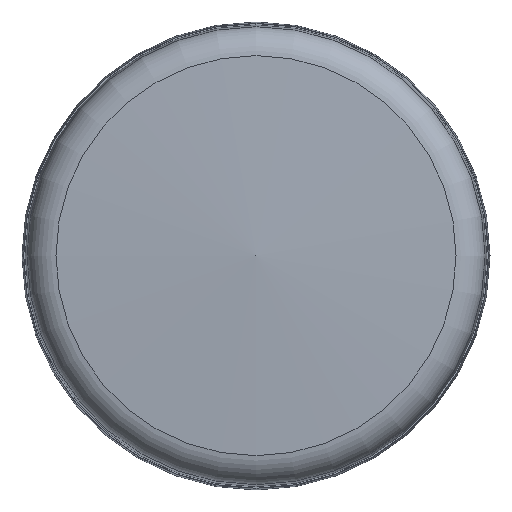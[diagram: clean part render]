
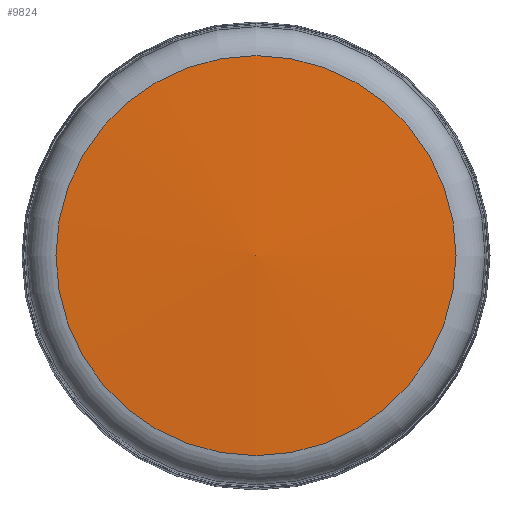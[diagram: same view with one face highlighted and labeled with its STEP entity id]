
A CAD part, top view. The second image highlights one B-rep face of the part: STEP entity #9824.
In plain terms, the highlighted spherical face has radius 150 mm.
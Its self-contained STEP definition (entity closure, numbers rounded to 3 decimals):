
#34=SPHERICAL_SURFACE('',#29404,150.);
#9824=ADVANCED_FACE('',(#11880),#34,.T.);
#11880=FACE_OUTER_BOUND('',#13262,.T.);
#13262=EDGE_LOOP('',(#18156));
#18156=ORIENTED_EDGE('',*,*,#25406,.T.);
#22315=VERTEX_POINT('',#55901);
#25406=EDGE_CURVE('',#22315,#22315,#27274,.T.);
#27274=CIRCLE('',#29403,12.651);
#29403=AXIS2_PLACEMENT_3D('',#55900,#34010,#34011);
#29404=AXIS2_PLACEMENT_3D('',#55902,#34012,#34013);
#34010=DIRECTION('',(0.,0.,1.));
#34011=DIRECTION('',(-1.,0.,0.));
#34012=DIRECTION('',(0.,0.,1.));
#34013=DIRECTION('',(1.,0.,0.));
#55900=CARTESIAN_POINT('',(320.,0.,-24.934));
#55901=CARTESIAN_POINT('',(307.349,0.,-24.934));
#55902=CARTESIAN_POINT('',(320.,0.,-174.4));
